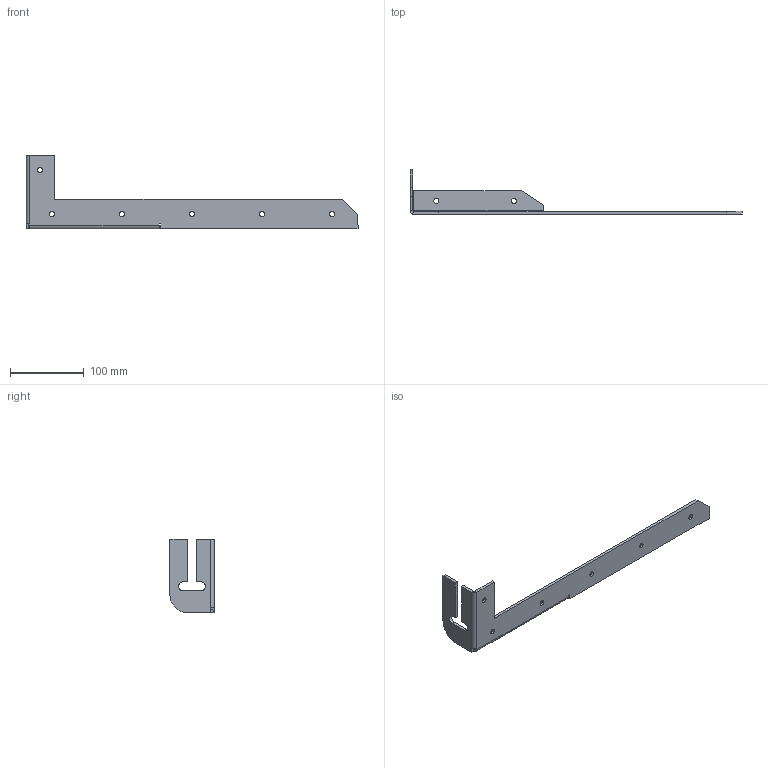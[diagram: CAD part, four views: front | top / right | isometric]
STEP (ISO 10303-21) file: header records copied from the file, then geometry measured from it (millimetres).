
FILE_DESCRIPTION (( 'STEP AP203' ), '1' );
FILE_NAME ('6200.450.STEP', '2020-09-30T11:04:19', ( '' ), ( '' ), 'SwSTEP 2.0', 'SolidWorks 2015', '' );
FILE_SCHEMA (( 'CONFIG_CONTROL_DESIGN' ));
Length unit declared in the file: millimetre
Products named in the file (1): 6200.450
Bounding box: 450 x 60 x 100 mm (x, y, z)
Volume: 113731.3 mm3; surface area: 63263.2 mm2
Topology: 1 solids, 1 shells, 70 faces, 180 edges, 112 vertices
Faces by surface type: plane 34, cylinder 24, cone 12
Entity records: 2221 total; most frequent: DIRECTION 382, CARTESIAN_POINT 363, ORIENTED_EDGE 360, EDGE_CURVE 180, AXIS2_PLACEMENT_3D 131, VECTOR 120, LINE 120, VERTEX_POINT 112
